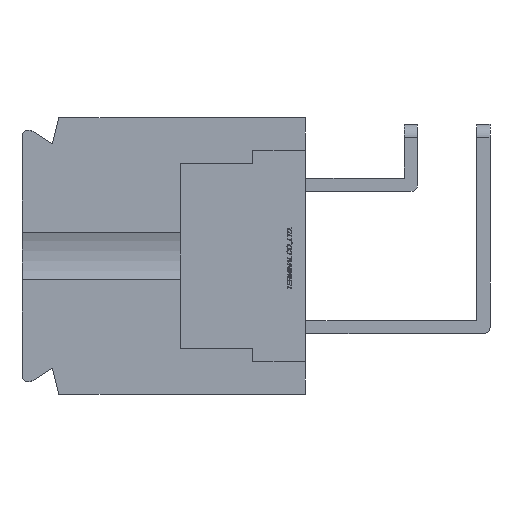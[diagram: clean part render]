
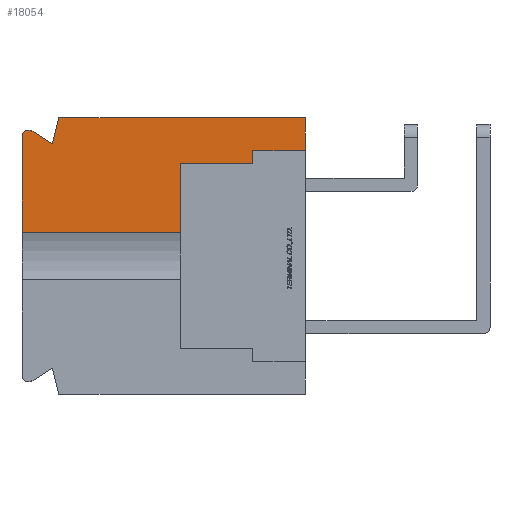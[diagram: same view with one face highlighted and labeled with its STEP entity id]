
A CAD part, left-side view. The second image highlights one B-rep face of the part: STEP entity #18054.
In plain terms, the highlighted planar face has unit normal (-1, 0, 0).
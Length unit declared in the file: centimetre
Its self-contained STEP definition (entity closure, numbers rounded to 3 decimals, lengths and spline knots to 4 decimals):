
#526=CIRCLE('',#30572,0.05);
#981=VECTOR('',#20072,1.);
#982=VECTOR('',#20073,1.);
#983=VECTOR('',#20074,1.);
#984=VECTOR('',#20075,1.);
#985=VECTOR('',#20076,1.);
#986=VECTOR('',#20077,1.);
#987=VECTOR('',#20078,1.);
#988=VECTOR('',#20079,1.);
#989=VECTOR('',#20082,1.);
#990=VECTOR('',#20083,1.);
#3160=LINE('',#24069,#981);
#3161=LINE('',#24072,#982);
#3162=LINE('',#24074,#983);
#3163=LINE('',#24076,#984);
#3164=LINE('',#24078,#985);
#3165=LINE('',#24080,#986);
#3166=LINE('',#24082,#987);
#3167=LINE('',#24084,#988);
#3168=LINE('',#24088,#989);
#3169=LINE('',#24090,#990);
#5352=VERTEX_POINT('',#24070);
#5353=VERTEX_POINT('',#24071);
#5354=VERTEX_POINT('',#24073);
#5355=VERTEX_POINT('',#24075);
#5356=VERTEX_POINT('',#24077);
#5357=VERTEX_POINT('',#24079);
#5358=VERTEX_POINT('',#24081);
#5359=VERTEX_POINT('',#24083);
#5360=VERTEX_POINT('',#24085);
#5361=VERTEX_POINT('',#24087);
#5362=VERTEX_POINT('',#24089);
#7359=EDGE_CURVE('',#5352,#5353,#3160,.T.);
#7360=EDGE_CURVE('',#5354,#5352,#3161,.T.);
#7361=EDGE_CURVE('',#5355,#5354,#3162,.T.);
#7362=EDGE_CURVE('',#5356,#5355,#3163,.T.);
#7363=EDGE_CURVE('',#5357,#5356,#3164,.T.);
#7364=EDGE_CURVE('',#5358,#5357,#3165,.T.);
#7365=EDGE_CURVE('',#5359,#5358,#3166,.T.);
#7366=EDGE_CURVE('',#5360,#5359,#3167,.T.);
#7367=EDGE_CURVE('',#5361,#5360,#526,.T.);
#7368=EDGE_CURVE('',#5362,#5361,#3168,.T.);
#7369=EDGE_CURVE('',#5362,#5353,#3169,.T.);
#10283=ORIENTED_EDGE('',*,*,#7359,.F.);
#10284=ORIENTED_EDGE('',*,*,#7360,.F.);
#10285=ORIENTED_EDGE('',*,*,#7361,.F.);
#10286=ORIENTED_EDGE('',*,*,#7362,.F.);
#10287=ORIENTED_EDGE('',*,*,#7363,.F.);
#10288=ORIENTED_EDGE('',*,*,#7364,.F.);
#10289=ORIENTED_EDGE('',*,*,#7365,.F.);
#10290=ORIENTED_EDGE('',*,*,#7366,.F.);
#10291=ORIENTED_EDGE('',*,*,#7367,.F.);
#10292=ORIENTED_EDGE('',*,*,#7368,.F.);
#10293=ORIENTED_EDGE('',*,*,#7369,.T.);
#15748=EDGE_LOOP('',(#10283,#10284,#10285,#10286,#10287,#10288,#10289,#10290,
#10291,#10292,#10293));
#16906=FACE_BOUND('',#15748,.T.);
#18054=ADVANCED_FACE('',(#16906),#19093,.F.);
#19093=PLANE('',#30571);
#20071=DIRECTION('',(1.,0.,0.));
#20072=DIRECTION('',(0.,0.,-1.));
#20073=DIRECTION('',(0.,1.,0.));
#20074=DIRECTION('',(0.,0.,-1.));
#20075=DIRECTION('',(0.,1.,0.));
#20076=DIRECTION('',(0.,0.,-1.));
#20077=DIRECTION('',(0.,-1.,0.));
#20078=DIRECTION('',(0.,-0.243,0.97));
#20079=DIRECTION('',(0.,-0.844,-0.536));
#20080=DIRECTION('',(1.,0.,0.));
#20081=DIRECTION('',(0.,0.,-0.05));
#20082=DIRECTION('',(0.,0.,1.));
#20083=DIRECTION('',(0.,-1.,0.));
#24068=CARTESIAN_POINT('',(-1.1,1.082,0.));
#24069=CARTESIAN_POINT('',(-1.1,0.95,-0.7));
#24070=CARTESIAN_POINT('',(-1.1,0.95,0.7));
#24071=CARTESIAN_POINT('',(-1.1,0.95,0.1809));
#24072=CARTESIAN_POINT('',(-1.1,0.95,0.7));
#24073=CARTESIAN_POINT('',(-1.1,0.4,0.7));
#24074=CARTESIAN_POINT('',(-1.1,0.4,0.7));
#24075=CARTESIAN_POINT('',(-1.1,0.4,0.8));
#24076=CARTESIAN_POINT('',(-1.1,0.4,0.8));
#24077=CARTESIAN_POINT('',(-1.1,0.,0.8));
#24078=CARTESIAN_POINT('',(-1.1,0.,1.05));
#24079=CARTESIAN_POINT('',(-1.1,0.,1.05));
#24080=CARTESIAN_POINT('',(-1.1,1.87,1.05));
#24081=CARTESIAN_POINT('',(-1.1,1.87,1.05));
#24082=CARTESIAN_POINT('',(-1.1,1.92,0.85));
#24083=CARTESIAN_POINT('',(-1.1,1.92,0.85));
#24084=CARTESIAN_POINT('',(-1.1,2.0742,0.9478));
#24085=CARTESIAN_POINT('',(-1.1,2.0742,0.9478));
#24086=CARTESIAN_POINT('',(-1.1,2.1,0.905));
#24087=CARTESIAN_POINT('',(-1.1,2.15,0.905));
#24088=CARTESIAN_POINT('',(-1.1,2.15,-0.905));
#24089=CARTESIAN_POINT('',(-1.1,2.15,0.1809));
#24090=CARTESIAN_POINT('',(-1.1,1.55,0.1809));
#30571=AXIS2_PLACEMENT_3D('',#24068,#20071,$);
#30572=AXIS2_PLACEMENT_3D('',#24086,#20080,#20081);
